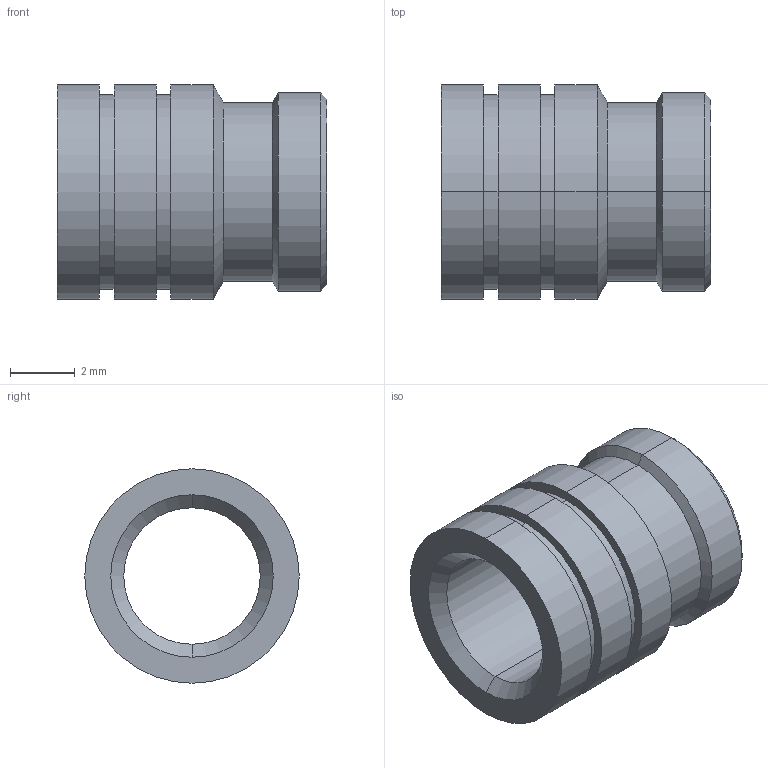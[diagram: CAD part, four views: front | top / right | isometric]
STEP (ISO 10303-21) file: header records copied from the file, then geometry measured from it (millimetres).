
FILE_DESCRIPTION (( 'STEP AP203' ), '1' );
FILE_NAME ('FSUK-MU-M05-S.STEP', '2021-04-15T13:15:04', ( '' ), ( '' ), 'SwSTEP 2.0', 'SolidWorks 2021', '' );
FILE_SCHEMA (( 'CONFIG_CONTROL_DESIGN' ));
Length unit declared in the file: millimetre
Products named in the file (1): FSUK-MU-M05-S
Bounding box: 8.3 x 6.6 x 6.6 mm (x, y, z)
Volume: 134.7 mm3; surface area: 332 mm2
Topology: 1 solids, 1 shells, 32 faces, 64 edges, 38 vertices
Faces by surface type: cylinder 16, cone 10, plane 6
Entity records: 915 total; most frequent: DIRECTION 168, CARTESIAN_POINT 135, ORIENTED_EDGE 128, AXIS2_PLACEMENT_3D 71, EDGE_CURVE 64, VERTEX_POINT 38, CIRCLE 38, EDGE_LOOP 38
